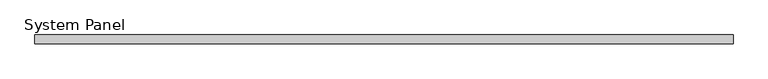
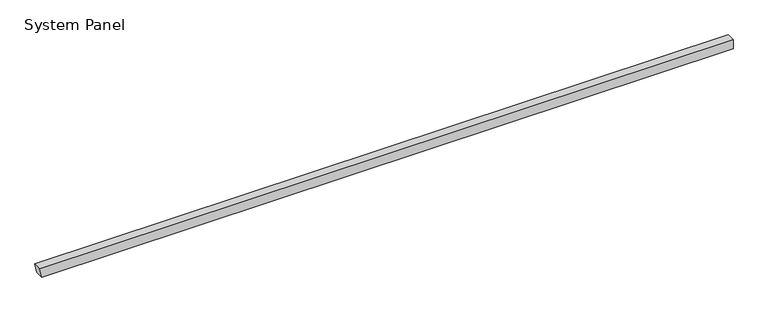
"""IFC4 building model written with IfcOpenShell, lengths in millimetres: plate geometry, System Panel : Equitilt 75mm Horizontal - Plain RHEA - EPS-FR."""

from ifc_helpers import new_model, si_unit, frame, origin, place, context, project, spatial, polyline, outline, extrude, source, transform, mapped, element, save


def system_panel_276398e4(model_context):
    return source(origin(), model_context, "Body", "SweptSolid", [
        extrude(outline(polyline([(0.0, -2972.6149856), (0.0, 2990.0), (79.9704237, 2990.0), (79.9704237, -2990.0), (0.0, -2972.6149856)])), frame((0.0, -75.0, 0.0), z_axis=(0.0, 1.0, 0.0), x_axis=(0.0, 0.0, 1.0)), (0.0, 0.0, 1.0), 75.0),
    ])


if __name__ == "__main__":
    model = new_model("IFC4")
    model_context = context("Model", 3, world=origin())
    ifc_project = project(units=[si_unit("LENGTHUNIT", "METRE", prefix="MILLI")], contexts=[model_context])
    site = spatial("IfcSite", under=ifc_project)
    building = spatial("IfcBuilding", under=site)
    placement = place(None, origin())
    system_panel_shape = system_panel_276398e4(model_context)
    element("IfcPlate", 1, ObjectType="System Panel : Equitilt 75mm Horizontal - Plain RHEA - EPS-FR", at=placement, inside=building, context=model_context, shape_type="MappedRepresentation", body=[
        mapped(system_panel_shape, transform((0.0, 0.0, 0.0), x_axis=(1.0, 0.0, 0.0), y_axis=(0.0, 1.0, 0.0), z_axis=(0.0, 0.0, 1.0))),
    ])
    save(model, "model.ifc")
